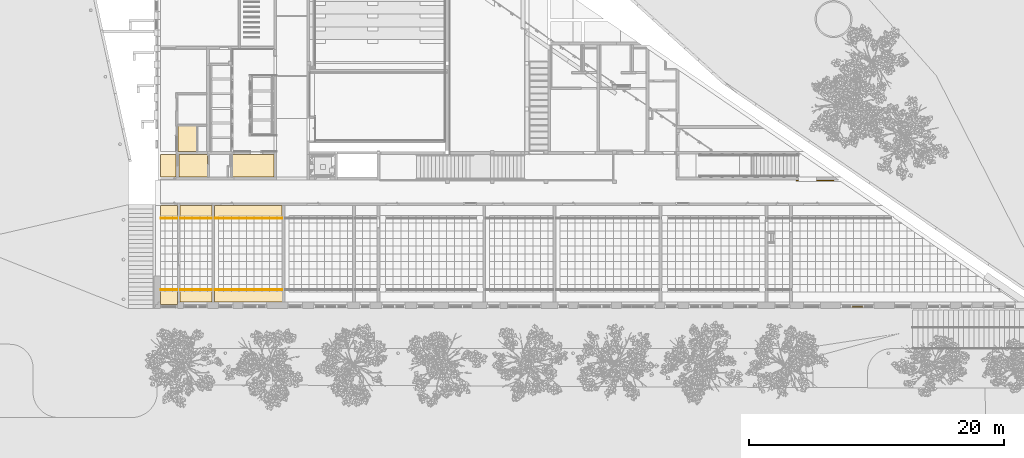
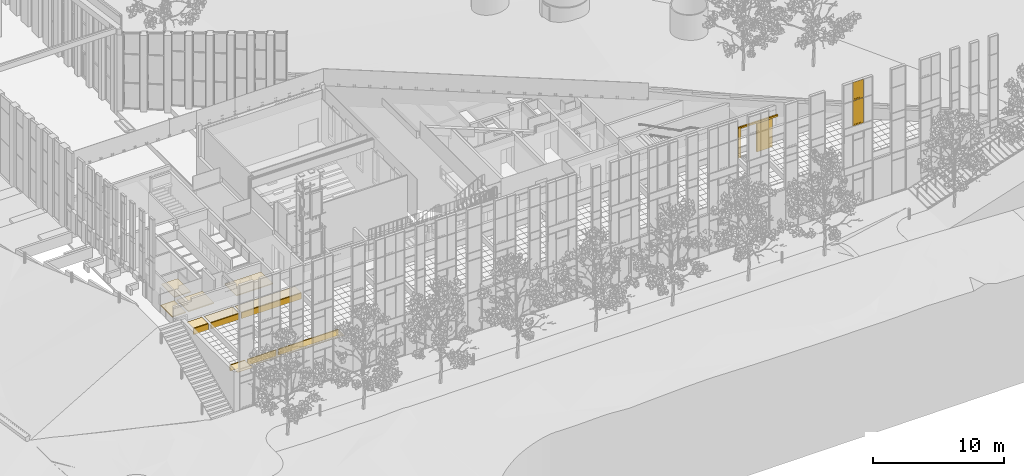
# One storey, part 153 of 246: 16 coverings, 2 windows, 1 door, 1 element without a shape of its own.
"""IFC2X3 building model written with IfcOpenShell, lengths in millimetres."""

from ifc_helpers import new_model, entity, si_unit, converted_unit, derived_unit, money_unit, direction, frame, origin_with_axes, place, context, subcontext, project, spatial, open_shell, faceted_brep, surface_model, source, transform, mapped, material, material_list, type_object, element, aggregate, save


model = new_model("IFC2X3")

# Units and contexts
model_context = context("Model", 3, precision=0.01, world=origin_with_axes(), true_north=direction((0.0, 1.0)))
body_context = subcontext(model_context, "Body", "Model", "MODEL_VIEW")
ifc_project = project(units=[si_unit("LENGTHUNIT", "METRE", prefix="MILLI"), si_unit("AREAUNIT", "SQUARE_METRE"), si_unit("VOLUMEUNIT", "CUBIC_METRE"), converted_unit("PLANEANGLEUNIT", "DEGREE", entity("IfcPlaneAngleMeasure", 0.0174532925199), si_unit("PLANEANGLEUNIT", "RADIAN"), dimensions=[0, 0, 0, 0, 0, 0, 0]), si_unit("SOLIDANGLEUNIT", "STERADIAN"), money_unit("EUR"), converted_unit("TIMEUNIT", "Year", entity("IfcTimeMeasure", 31556926.0), si_unit("TIMEUNIT", "SECOND"), dimensions=[0, 0, 1, 0, 0, 0, 0]), si_unit("MASSUNIT", "GRAM", prefix="KILO"), si_unit("THERMODYNAMICTEMPERATUREUNIT", "DEGREE_CELSIUS"), si_unit("LUMINOUSINTENSITYUNIT", "LUMEN"), si_unit("ENERGYUNIT", "JOULE", prefix="MEGA"), derived_unit("THERMALCONDUCTANCEUNIT", [(si_unit("POWERUNIT", "WATT"), 1), (si_unit("LENGTHUNIT", "METRE"), -1), (si_unit("THERMODYNAMICTEMPERATUREUNIT", "KELVIN"), -1)]), derived_unit("SPECIFICHEATCAPACITYUNIT", [(si_unit("ENERGYUNIT", "JOULE"), 1), (si_unit("MASSUNIT", "GRAM", prefix="KILO"), -1), (si_unit("THERMODYNAMICTEMPERATUREUNIT", "KELVIN"), -1)]), derived_unit("MASSDENSITYUNIT", [(si_unit("MASSUNIT", "GRAM", prefix="KILO"), 1), (si_unit("VOLUMEUNIT", "CUBIC_METRE"), -1)])], contexts=[model_context])

# Site, building, storey
site_placement = place(None, origin_with_axes())
site = spatial("IfcSite", under=ifc_project, at=site_placement, Name="L.Koidula tn 11b", CompositionType="ELEMENT")
building_placement = place(site_placement, origin_with_axes())
building = spatial("IfcBuilding", under=site, at=building_placement, Name="Rakvere Riigigümnaasium", CompositionType="ELEMENT")
storey_placement = place(building_placement, origin_with_axes())
storey = spatial("IfcBuildingStorey", under=building, at=storey_placement, Name="1.korrus 0,00", CompositionType="ELEMENT", Elevation=0.0)

# Curtain wall, windows
curtain_wall_type = type_object("IfcCurtainWallType", Name="Curtain Wall Type", PredefinedType="NOTDEFINED")
curtain_wall_placement = place(storey_placement, frame((90220.0003282, 5111.43278481, -1.61944594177e-05), z_axis=(0.0, 0.0, 1.0), x_axis=(1.0, 0.0, 0.0)))
curtain_wall = element("IfcCurtainWall", 1, at=curtain_wall_placement, inside=storey, type_object=curtain_wall_type, Name="KLF-05-3A")
ifc_material_1 = material(Name="Alumiiniumprofiil (RAL 7021)")
ifc_material_2 = material(Name="Klaaspakett 3x ribikardinatega")
ifc_material_list_1 = material_list([ifc_material_1, ifc_material_2])
window_style_1 = type_object("IfcWindowStyle", Name="926 x 2351 x 54", ConstructionType="NOTDEFINED", OperationType="NOTDEFINED", ParameterTakesPrecedence=False, Sizeable=False)
shared_shape_1 = source(origin_with_axes(), body_context, "Body", "SurfaceModel", [
    surface_model("IfcShellBasedSurfaceModel", [(24.9999850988, 24.9999850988, 38.0), (83.9999850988, 83.9999850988, 38.0), (866.000014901, 83.9999850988, 38.0), (925.000014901, 24.9999850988, 38.0)], [open_shell([[[0, 1, 2, 3]]])]),
    surface_model("IfcShellBasedSurfaceModel", [(925.000014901, 24.9999850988, 38.0), (866.000014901, 83.9999850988, 38.0), (866.000014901, 2291.0000149, 38.0), (925.000014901, 2350.0000149, 38.0)], [open_shell([[[0, 1, 2, 3]]])]),
    surface_model("IfcShellBasedSurfaceModel", [(24.9999850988, 2350.0000149, 38.0), (925.000014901, 2350.0000149, 38.0), (866.000014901, 2291.0000149, 38.0), (83.9999850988, 2291.0000149, 38.0)], [open_shell([[[0, 1, 2, 3]]])]),
    surface_model("IfcShellBasedSurfaceModel", [(24.9999850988, 24.9999850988, 38.0), (24.9999850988, 2350.0000149, 38.0), (83.9999850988, 2291.0000149, 38.0), (83.9999850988, 83.9999850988, 38.0)], [open_shell([[[0, 1, 2, 3]]])]),
    faceted_brep([(24.9999850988, 24.9999850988, -51.0), (925.000014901, 24.9999850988, -51.0), (925.000014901, 24.9999850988, 38.0), (24.9999850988, 24.9999850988, 38.0), (83.9999850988, 83.9999850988, -51.0), (866.000014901, 83.9999850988, -51.0), (866.000014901, 83.9999850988, 38.0), (83.9999850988, 83.9999850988, 38.0)], [[[0, 1, 2, 3]], [[0, 4, 5, 1]], [[1, 5, 6, 2]], [[3, 2, 6, 7]], [[4, 0, 3, 7]], [[5, 4, 7, 6]]]),
    faceted_brep([(925.000014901, 24.9999850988, -51.0), (925.000014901, 2350.0000149, -51.0), (925.000014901, 2350.0000149, 38.0), (925.000014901, 24.9999850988, 38.0), (866.000014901, 83.9999850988, -51.0), (866.000014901, 2291.0000149, -51.0), (866.000014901, 2291.0000149, 38.0), (866.000014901, 83.9999850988, 38.0)], [[[0, 1, 2, 3]], [[0, 4, 5, 1]], [[1, 5, 6, 2]], [[3, 2, 6, 7]], [[4, 0, 3, 7]], [[5, 4, 7, 6]]]),
    faceted_brep([(24.9999850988, 2350.0000149, -51.0), (83.9999850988, 2291.0000149, -51.0), (83.9999850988, 2291.0000149, 38.0), (24.9999850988, 2350.0000149, 38.0), (925.000014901, 2350.0000149, -51.0), (866.000014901, 2291.0000149, -51.0), (866.000014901, 2291.0000149, 38.0), (925.000014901, 2350.0000149, 38.0)], [[[0, 1, 2, 3]], [[0, 4, 5, 1]], [[1, 5, 6, 2]], [[3, 2, 6, 7]], [[4, 0, 3, 7]], [[5, 4, 7, 6]]]),
    faceted_brep([(24.9999850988, 24.9999850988, -51.0), (83.9999850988, 83.9999850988, -51.0), (83.9999850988, 83.9999850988, 38.0), (24.9999850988, 24.9999850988, 38.0), (24.9999850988, 2350.0000149, -51.0), (83.9999850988, 2291.0000149, -51.0), (83.9999850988, 2291.0000149, 38.0), (24.9999850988, 2350.0000149, 38.0)], [[[0, 1, 2, 3]], [[0, 4, 5, 1]], [[1, 5, 6, 2]], [[3, 2, 6, 7]], [[4, 0, 3, 7]], [[5, 4, 7, 6]]]),
    faceted_brep([(11.9999985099, 11.9999985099, -27.0), (938.00000149, 11.9999985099, -27.0), (938.00000149, 11.9999985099, 27.0), (11.9999985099, 11.9999985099, 27.0), (24.9999850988, 24.9999850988, -27.0), (925.000014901, 24.9999850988, -27.0), (925.000014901, 24.9999850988, 27.0), (24.9999850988, 24.9999850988, 27.0)], [[[0, 1, 2, 3]], [[0, 4, 5, 1]], [[1, 5, 6, 2]], [[3, 2, 6, 7]], [[4, 0, 3, 7]], [[5, 4, 7, 6]]]),
    faceted_brep([(938.00000149, 11.9999985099, -27.0), (938.00000149, 2363.00000149, -27.0), (938.00000149, 2363.00000149, 27.0), (938.00000149, 11.9999985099, 27.0), (925.000014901, 24.9999850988, -27.0), (925.000014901, 2350.0000149, -27.0), (925.000014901, 2350.0000149, 27.0), (925.000014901, 24.9999850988, 27.0)], [[[0, 1, 2, 3]], [[0, 4, 5, 1]], [[1, 5, 6, 2]], [[3, 2, 6, 7]], [[4, 0, 3, 7]], [[5, 4, 7, 6]]]),
    faceted_brep([(938.00000149, 2363.00000149, -27.0), (11.9999985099, 2363.00000149, -27.0), (11.9999985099, 2363.00000149, 27.0), (938.00000149, 2363.00000149, 27.0), (925.000014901, 2350.0000149, -27.0), (24.9999850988, 2350.0000149, -27.0), (24.9999850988, 2350.0000149, 27.0), (925.000014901, 2350.0000149, 27.0)], [[[0, 1, 2, 3]], [[0, 4, 5, 1]], [[1, 5, 6, 2]], [[3, 2, 6, 7]], [[4, 0, 3, 7]], [[5, 4, 7, 6]]]),
    faceted_brep([(11.9999985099, 2363.00000149, -27.0), (11.9999985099, 11.9999985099, -27.0), (11.9999985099, 11.9999985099, 27.0), (11.9999985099, 2363.00000149, 27.0), (24.9999850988, 2350.0000149, -27.0), (24.9999850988, 24.9999850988, -27.0), (24.9999850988, 24.9999850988, 27.0), (24.9999850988, 2350.0000149, 27.0)], [[[0, 1, 2, 3]], [[0, 4, 5, 1]], [[1, 5, 6, 2]], [[3, 2, 6, 7]], [[4, 0, 3, 7]], [[5, 4, 7, 6]]]),
    faceted_brep([(146.999985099, 146.999985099, 38.0), (146.999985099, 146.999985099, -62.0), (146.999985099, 2228.0000149, -62.0), (146.999985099, 2228.0000149, 38.0), (83.9999850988, 83.9999850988, 38.0), (83.9999850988, 83.9999850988, -62.0), (83.9999850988, 2291.0000149, -62.0), (83.9999850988, 2291.0000149, 38.0)], [[[0, 1, 2, 3]], [[4, 5, 1, 0]], [[1, 5, 6, 2]], [[3, 2, 6, 7]], [[0, 3, 7, 4]], [[7, 6, 5, 4]]]),
    faceted_brep([(866.000014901, 83.9999850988, 38.0), (866.000014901, 83.9999850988, -62.0), (866.000014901, 2291.0000149, -62.0), (866.000014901, 2291.0000149, 38.0), (803.000014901, 146.999985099, 38.0), (803.000014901, 146.999985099, -62.0), (803.000014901, 2228.0000149, -62.0), (803.000014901, 2228.0000149, 38.0)], [[[0, 1, 2, 3]], [[4, 5, 1, 0]], [[1, 5, 6, 2]], [[3, 2, 6, 7]], [[0, 3, 7, 4]], [[7, 6, 5, 4]]]),
    faceted_brep([(866.000014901, 83.9999850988, 38.0), (866.000014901, 83.9999850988, -62.0), (803.000014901, 146.999985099, -62.0), (803.000014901, 146.999985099, 38.0), (83.9999850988, 83.9999850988, 38.0), (83.9999850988, 83.9999850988, -62.0), (146.999985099, 146.999985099, -62.0), (146.999985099, 146.999985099, 38.0)], [[[0, 1, 2, 3]], [[4, 5, 1, 0]], [[1, 5, 6, 2]], [[3, 2, 6, 7]], [[0, 3, 7, 4]], [[7, 6, 5, 4]]]),
    faceted_brep([(83.9999850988, 2291.0000149, 38.0), (83.9999850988, 2291.0000149, -62.0), (146.999985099, 2228.0000149, -62.0), (146.999985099, 2228.0000149, 38.0), (866.000014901, 2291.0000149, 38.0), (866.000014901, 2291.0000149, -62.0), (803.000014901, 2228.0000149, -62.0), (803.000014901, 2228.0000149, 38.0)], [[[0, 1, 2, 3]], [[4, 5, 1, 0]], [[1, 5, 6, 2]], [[3, 2, 6, 7]], [[0, 3, 7, 4]], [[7, 6, 5, 4]]]),
    faceted_brep([(146.999985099, 146.999985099, 27.0), (146.999985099, 146.999985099, -38.0), (803.000014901, 146.999985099, -38.0), (803.000014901, 146.999985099, 27.0), (146.999985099, 2228.0000149, 27.0), (146.999985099, 2228.0000149, -38.0), (803.000014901, 2228.0000149, -38.0), (803.000014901, 2228.0000149, 27.0)], [[[0, 1, 2, 3]], [[4, 5, 1, 0]], [[1, 5, 6, 2]], [[3, 2, 6, 7]], [[0, 3, 7, 4]], [[7, 6, 5, 4]]]),
])
window_1_placement = place(curtain_wall_placement, frame((0.0, 0.0, 8652.5), z_axis=(0.0, 0.0, 1.0), x_axis=(-0.999999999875, 1.58166009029e-05, 0.0)))
window_1 = element("IfcWindow", 2, at=window_1_placement, type_object=window_style_1, material=ifc_material_list_1, Name="KLF-05-A-2", ObjectType="WINDOW", context=body_context, shape_type="MappedRepresentation", body=[
    mapped(shared_shape_1, transform((475.0, 0.0, -1187.5), x_axis=(-1.0, 0.0, 0.0), y_axis=(0.0, 0.0, 1.0), z_axis=(0.0, 1.0, 0.0))),
])
window_style_2 = type_object("IfcWindowStyle", Name="926 x 1701 x 54", ConstructionType="NOTDEFINED", OperationType="NOTDEFINED", ParameterTakesPrecedence=False, Sizeable=False)
shared_shape_2 = source(origin_with_axes(), body_context, "Body", "SurfaceModel", [
    surface_model("IfcShellBasedSurfaceModel", [(24.9999968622, 24.9999968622, 38.0), (83.9999968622, 83.9999968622, 38.0), (865.999988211, 83.9999968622, 38.0), (924.999988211, 24.9999968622, 38.0)], [open_shell([[[0, 1, 2, 3]]])]),
    surface_model("IfcShellBasedSurfaceModel", [(924.999988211, 24.9999968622, 38.0), (865.999988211, 83.9999968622, 38.0), (865.999988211, 1641.0000474, 38.0), (924.999988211, 1700.0000474, 38.0)], [open_shell([[[0, 1, 2, 3]]])]),
    surface_model("IfcShellBasedSurfaceModel", [(24.9999968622, 1700.0000474, 38.0), (924.999988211, 1700.0000474, 38.0), (865.999988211, 1641.0000474, 38.0), (83.9999968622, 1641.0000474, 38.0)], [open_shell([[[0, 1, 2, 3]]])]),
    surface_model("IfcShellBasedSurfaceModel", [(24.9999968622, 24.9999968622, 38.0), (24.9999968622, 1700.0000474, 38.0), (83.9999968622, 1641.0000474, 38.0), (83.9999968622, 83.9999968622, 38.0)], [open_shell([[[0, 1, 2, 3]]])]),
    faceted_brep([(24.9999968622, 24.9999968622, -51.0), (924.999988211, 24.9999968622, -51.0), (924.999988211, 24.9999968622, 38.0), (24.9999968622, 24.9999968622, 38.0), (83.9999968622, 83.9999968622, -51.0), (865.999988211, 83.9999968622, -51.0), (865.999988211, 83.9999968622, 38.0), (83.9999968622, 83.9999968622, 38.0)], [[[0, 1, 2, 3]], [[0, 4, 5, 1]], [[1, 5, 6, 2]], [[3, 2, 6, 7]], [[4, 0, 3, 7]], [[5, 4, 7, 6]]]),
    faceted_brep([(924.999988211, 24.9999968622, -51.0), (924.999988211, 1700.0000474, -51.0), (924.999988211, 1700.0000474, 38.0), (924.999988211, 24.9999968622, 38.0), (865.999988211, 83.9999968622, -51.0), (865.999988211, 1641.0000474, -51.0), (865.999988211, 1641.0000474, 38.0), (865.999988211, 83.9999968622, 38.0)], [[[0, 1, 2, 3]], [[0, 4, 5, 1]], [[1, 5, 6, 2]], [[3, 2, 6, 7]], [[4, 0, 3, 7]], [[5, 4, 7, 6]]]),
    faceted_brep([(24.9999968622, 1700.0000474, -51.0), (83.9999968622, 1641.0000474, -51.0), (83.9999968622, 1641.0000474, 38.0), (24.9999968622, 1700.0000474, 38.0), (924.999988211, 1700.0000474, -51.0), (865.999988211, 1641.0000474, -51.0), (865.999988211, 1641.0000474, 38.0), (924.999988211, 1700.0000474, 38.0)], [[[0, 1, 2, 3]], [[0, 4, 5, 1]], [[1, 5, 6, 2]], [[3, 2, 6, 7]], [[4, 0, 3, 7]], [[5, 4, 7, 6]]]),
    faceted_brep([(24.9999968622, 24.9999968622, -51.0), (83.9999968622, 83.9999968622, -51.0), (83.9999968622, 83.9999968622, 38.0), (24.9999968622, 24.9999968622, 38.0), (24.9999968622, 1700.0000474, -51.0), (83.9999968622, 1641.0000474, -51.0), (83.9999968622, 1641.0000474, 38.0), (24.9999968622, 1700.0000474, 38.0)], [[[0, 1, 2, 3]], [[0, 4, 5, 1]], [[1, 5, 6, 2]], [[3, 2, 6, 7]], [[4, 0, 3, 7]], [[5, 4, 7, 6]]]),
    faceted_brep([(12.0000099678, 12.0000099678, -27.0), (938.000001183, 12.0000099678, -27.0), (938.000001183, 12.0000099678, 27.0), (12.0000099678, 12.0000099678, 27.0), (24.9999968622, 24.9999968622, -27.0), (924.999988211, 24.9999968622, -27.0), (924.999988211, 24.9999968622, 27.0), (24.9999968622, 24.9999968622, 27.0)], [[[0, 1, 2, 3]], [[0, 4, 5, 1]], [[1, 5, 6, 2]], [[3, 2, 6, 7]], [[4, 0, 3, 7]], [[5, 4, 7, 6]]]),
    faceted_brep([(938.000001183, 12.0000099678, -27.0), (938.000001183, 1713.0000343, -27.0), (938.000001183, 1713.0000343, 27.0), (938.000001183, 12.0000099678, 27.0), (924.999988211, 24.9999968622, -27.0), (924.999988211, 1700.0000474, -27.0), (924.999988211, 1700.0000474, 27.0), (924.999988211, 24.9999968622, 27.0)], [[[0, 1, 2, 3]], [[0, 4, 5, 1]], [[1, 5, 6, 2]], [[3, 2, 6, 7]], [[4, 0, 3, 7]], [[5, 4, 7, 6]]]),
    faceted_brep([(938.000001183, 1713.0000343, -27.0), (12.0000099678, 1713.0000343, -27.0), (12.0000099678, 1713.0000343, 27.0), (938.000001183, 1713.0000343, 27.0), (924.999988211, 1700.0000474, -27.0), (24.9999968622, 1700.0000474, -27.0), (24.9999968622, 1700.0000474, 27.0), (924.999988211, 1700.0000474, 27.0)], [[[0, 1, 2, 3]], [[0, 4, 5, 1]], [[1, 5, 6, 2]], [[3, 2, 6, 7]], [[4, 0, 3, 7]], [[5, 4, 7, 6]]]),
    faceted_brep([(12.0000099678, 1713.0000343, -27.0), (12.0000099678, 12.0000099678, -27.0), (12.0000099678, 12.0000099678, 27.0), (12.0000099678, 1713.0000343, 27.0), (24.9999968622, 1700.0000474, -27.0), (24.9999968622, 24.9999968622, -27.0), (24.9999968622, 24.9999968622, 27.0), (24.9999968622, 1700.0000474, 27.0)], [[[0, 1, 2, 3]], [[0, 4, 5, 1]], [[1, 5, 6, 2]], [[3, 2, 6, 7]], [[4, 0, 3, 7]], [[5, 4, 7, 6]]]),
    faceted_brep([(146.999996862, 146.999996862, 38.0), (146.999996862, 146.999996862, -62.0), (146.999996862, 1578.0000474, -62.0), (146.999996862, 1578.0000474, 38.0), (83.9999968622, 83.9999968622, 38.0), (83.9999968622, 83.9999968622, -62.0), (83.9999968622, 1641.0000474, -62.0), (83.9999968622, 1641.0000474, 38.0)], [[[0, 1, 2, 3]], [[4, 5, 1, 0]], [[1, 5, 6, 2]], [[3, 2, 6, 7]], [[0, 3, 7, 4]], [[7, 6, 5, 4]]]),
    faceted_brep([(865.999988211, 83.9999968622, 38.0), (865.999988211, 83.9999968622, -62.0), (865.999988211, 1641.0000474, -62.0), (865.999988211, 1641.0000474, 38.0), (802.999988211, 146.999996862, 38.0), (802.999988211, 146.999996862, -62.0), (802.999988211, 1578.0000474, -62.0), (802.999988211, 1578.0000474, 38.0)], [[[0, 1, 2, 3]], [[4, 5, 1, 0]], [[1, 5, 6, 2]], [[3, 2, 6, 7]], [[0, 3, 7, 4]], [[7, 6, 5, 4]]]),
    faceted_brep([(865.999988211, 83.9999968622, 38.0), (865.999988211, 83.9999968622, -62.0), (802.999988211, 146.999996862, -62.0), (802.999988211, 146.999996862, 38.0), (83.9999968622, 83.9999968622, 38.0), (83.9999968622, 83.9999968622, -62.0), (146.999996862, 146.999996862, -62.0), (146.999996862, 146.999996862, 38.0)], [[[0, 1, 2, 3]], [[4, 5, 1, 0]], [[1, 5, 6, 2]], [[3, 2, 6, 7]], [[0, 3, 7, 4]], [[7, 6, 5, 4]]]),
    faceted_brep([(83.9999968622, 1641.0000474, 38.0), (83.9999968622, 1641.0000474, -62.0), (146.999996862, 1578.0000474, -62.0), (146.999996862, 1578.0000474, 38.0), (865.999988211, 1641.0000474, 38.0), (865.999988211, 1641.0000474, -62.0), (802.999988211, 1578.0000474, -62.0), (802.999988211, 1578.0000474, 38.0)], [[[0, 1, 2, 3]], [[4, 5, 1, 0]], [[1, 5, 6, 2]], [[3, 2, 6, 7]], [[0, 3, 7, 4]], [[7, 6, 5, 4]]]),
    faceted_brep([(146.999996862, 146.999996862, 27.0), (146.999996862, 146.999996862, -38.0), (802.999988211, 146.999996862, -38.0), (802.999988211, 146.999996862, 27.0), (146.999996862, 1578.0000474, 27.0), (146.999996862, 1578.0000474, -38.0), (802.999988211, 1578.0000474, -38.0), (802.999988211, 1578.0000474, 27.0)], [[[0, 1, 2, 3]], [[4, 5, 1, 0]], [[1, 5, 6, 2]], [[3, 2, 6, 7]], [[0, 3, 7, 4]], [[7, 6, 5, 4]]]),
])
window_2_placement = place(curtain_wall_placement, frame((0.0, 0.0, 10715.0000206), z_axis=(0.0, 0.0, 1.0), x_axis=(-0.999999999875, 1.58166009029e-05, 0.0)))
window_2 = element("IfcWindow", 3, at=window_2_placement, type_object=window_style_2, material=ifc_material_list_1, Name="KLF-05-A-4", ObjectType="WINDOW", context=body_context, shape_type="MappedRepresentation", body=[
    mapped(shared_shape_2, transform((475.0, 0.0, -875.000020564), x_axis=(-1.0, 0.0, 0.0), y_axis=(0.0, 0.0, 1.0), z_axis=(0.0, 1.0, 0.0))),
])
aggregate(curtain_wall, [window_1, window_2])

# Door
ifc_material_3 = material(Name="Alumiiniumprofiil")
door_style = type_object("IfcDoorStyle", Name="Liuguks 1400mm", ConstructionType="NOTDEFINED", OperationType="NOTDEFINED", ParameterTakesPrecedence=False, Sizeable=False)
shared_shape_3 = source(origin_with_axes(), body_context, "Body", "Brep", [
    faceted_brep([(0.0, 136.0, 0.0), (0.0, 136.0, 2870.0), (220.0000183, 136.0, 2870.0), (220.0000183, 136.0, 0.0), (0.0, 30.0, 0.0), (0.0, 30.0, 2870.0), (220.0000183, 30.0, 2870.0), (220.0000183, 30.0, 0.0)], [[[0, 1, 2, 3]], [[0, 4, 5, 1]], [[1, 5, 6, 2]], [[7, 3, 2, 6]], [[4, 0, 3, 7]], [[5, 4, 7, 6]]]),
    faceted_brep([(1620.0, 136.0, 0.0), (1620.0, 136.0, 2710.0), (3020.0, 136.0, 2710.0), (3020.0, 136.0, 0.0), (1620.0, 51.0, 0.0), (1620.0, 51.0, 2710.0), (3020.0, 51.0, 2710.0), (3020.0, 51.0, 0.0)], [[[0, 1, 2, 3]], [[1, 0, 4, 5]], [[1, 5, 6, 2]], [[3, 2, 6, 7]], [[4, 0, 3, 7]], [[5, 4, 7, 6]]]),
    faceted_brep([(220.0, 136.0, 2710.0), (220.0, 136.0, 2870.0000209), (3470.0, 136.0, 2870.0000209), (3470.0, 136.0, 2710.0), (220.0, 0.0, 2710.0), (220.0, 0.0, 2870.0000209), (3470.0, 0.0, 2870.0000209), (3470.0, 0.0, 2710.0)], [[[0, 1, 2, 3]], [[1, 0, 4, 5]], [[1, 5, 6, 2]], [[3, 2, 6, 7]], [[4, 0, 3, 7]], [[5, 4, 7, 6]]]),
])
door_placement = place(storey_placement, frame((85370.0187423, 14964.4785302, 0.0), z_axis=(0.0, 0.0, 1.0), x_axis=(1.0, 0.0, 0.0)))
element("IfcDoor", 4, at=door_placement, inside=storey, type_object=door_style, material=ifc_material_3, Name="SU-043", ObjectType="DOOR", context=body_context, shape_type="MappedRepresentation", body=[
    mapped(shared_shape_3, transform((0.0, 0.0, 0.0))),
])

# Coverings
ifc_material_4 = material(Name="mineraalvill+karkass")
ifc_material_5 = material(Name="SKR-02_Kipsplaat")
ifc_material_list_2 = material_list([ifc_material_4, ifc_material_5])
covering_type_1 = type_object("IfcCoveringType", Name="SA-LV-kips 79", PredefinedType="CEILING")
covering_1_placement = place(storey_placement, frame((44389.9999865, 17100.4555123, 2400.0), z_axis=(0.0, 0.0, 1.0), x_axis=(1.0, 0.0, 0.0)))
element("IfcCovering", 5, at=covering_1_placement, inside=storey, type_object=covering_type_1, material=ifc_material_list_2, Name="L-04.1", PredefinedType="CEILING", context=body_context, shape_type="Brep", body=[
    faceted_brep([(-3224.99266996, 0.0, 12.5), (-3224.99266996, 0.0, 78.5), (0.0, 0.0, 78.5), (0.0, 0.0, 12.5), (-3224.99266996, -1789.97698206, 12.5), (-3224.99266996, -1789.97698206, 78.5), (0.0, -1789.97698206, 78.5), (0.0, -1789.97698206, 12.5)], [[[0, 1, 2, 3]], [[4, 5, 1, 0]], [[2, 1, 5, 6]], [[3, 2, 6, 7]], [[3, 7, 4, 0]], [[7, 6, 5, 4]]]),
    faceted_brep([(0.0, 0.0, 0.0), (-3224.99266996, 0.0, 0.0), (-3224.99266996, 0.0, 12.5), (0.0, 0.0, 12.5), (0.0, -1789.97698206, 0.0), (-3224.99266996, -1789.97698206, 0.0), (-3224.99266996, -1789.97698206, 12.5), (0.0, -1789.97698206, 12.5)], [[[0, 1, 2, 3]], [[0, 4, 5, 1]], [[1, 5, 6, 2]], [[3, 2, 6, 7]], [[4, 0, 3, 7]], [[5, 4, 7, 6]]]),
])
covering_2_placement = place(storey_placement, frame((39185.007288, 17100.4555054, 2400.0), z_axis=(0.0, 0.0, 1.0), x_axis=(1.0, 0.0, 0.0)))
element("IfcCovering", 6, at=covering_2_placement, inside=storey, type_object=covering_type_1, material=ifc_material_list_2, Name="L-04", PredefinedType="CEILING", context=body_context, shape_type="Brep", body=[
    faceted_brep([(-2255.00723728, 0.0, 12.5), (-2255.00723728, 0.0, 78.5), (0.0, 0.0, 78.5), (0.0, 0.0, 12.5), (-2255.00723728, -1789.97697519, 12.5), (-2255.00723728, -1789.97697519, 78.5), (0.0, -1789.97697519, 78.5), (0.0, -1789.97697519, 12.5)], [[[0, 1, 2, 3]], [[4, 5, 1, 0]], [[2, 1, 5, 6]], [[3, 2, 6, 7]], [[3, 7, 4, 0]], [[7, 6, 5, 4]]]),
    faceted_brep([(0.0, 0.0, 0.0), (-2255.00723728, 0.0, 0.0), (-2255.00723728, 0.0, 12.5), (0.0, 0.0, 12.5), (0.0, -1789.97697519, 0.0), (-2255.00723728, -1789.97697519, 0.0), (-2255.00723728, -1789.97697519, 12.5), (0.0, -1789.97697519, 12.5)], [[[0, 1, 2, 3]], [[0, 4, 5, 1]], [[1, 5, 6, 2]], [[3, 2, 6, 7]], [[4, 0, 3, 7]], [[5, 4, 7, 6]]]),
])
for number, where, z_axis, x_axis, name in (
    (7, (39529.9999985, 12135.4543717, 2762.5), (0.0, 0.0, 1.0), (-1.0, 0.0, 0.0), "L-04 vert"),
    (8, (37030.0000005, 6435.45437174, 2762.5), (0.0, 0.0, 1.0), (1.0, 0.0, 0.0), "L-04 vert"),
):
    element("IfcCovering", number, at=place(storey_placement, frame(where, z_axis=z_axis, x_axis=x_axis)), inside=storey, type_object=covering_type_1, material=ifc_material_list_2, Name=name, PredefinedType="CEILING", context=body_context, shape_type="Brep", body=[
        faceted_brep([(2499.99999805, 12.5, 562.5), (2499.99999805, 78.5, 562.5), (0.0, 78.5, 562.5), (0.0, 12.5, 562.5), (2499.99999805, 12.5, 0.0), (2499.99999805, 78.5, 0.0), (0.0, 78.5, 0.0), (0.0, 12.5, 0.0)], [[[0, 1, 2, 3]], [[0, 4, 5, 1]], [[1, 5, 6, 2]], [[3, 2, 6, 7]], [[4, 0, 3, 7]], [[5, 4, 7, 6]]]),
        faceted_brep([(2499.99999805, 0.0, 562.5), (2499.99999805, 12.5, 562.5), (0.0, 12.5, 562.5), (0.0, 0.0, 562.5), (2499.99999805, 0.0, 0.0), (2499.99999805, 12.5, 0.0), (0.0, 12.5, 0.0), (0.0, 0.0, 0.0)], [[[0, 1, 2, 3]], [[0, 4, 5, 1]], [[1, 5, 6, 2]], [[3, 2, 6, 7]], [[4, 0, 3, 7]], [[5, 4, 7, 6]]]),
    ])
for number, where, z_axis, x_axis, name in (
    (9, (45049.9999972, 12135.4543717, 2762.5), (0.0, 0.0, 1.0), (-1.0, 0.0, 0.0), "L-04 vert"),
    (10, (39749.9999985, 6435.45437174, 2762.5), (0.0, 0.0, 1.0), (1.0, 0.0, 0.0), "L-04 vert"),
):
    element("IfcCovering", number, at=place(storey_placement, frame(where, z_axis=z_axis, x_axis=x_axis)), inside=storey, type_object=covering_type_1, material=ifc_material_list_2, Name=name, PredefinedType="CEILING", context=body_context, shape_type="Brep", body=[
        faceted_brep([(5299.99999866, 12.5, 562.5), (5299.99999866, 78.5, 562.5), (0.0, 78.5, 562.5), (0.0, 12.5, 562.5), (5299.99999866, 12.5, 0.0), (5299.99999866, 78.5, 0.0), (0.0, 78.5, 0.0), (0.0, 12.5, 0.0)], [[[0, 1, 2, 3]], [[0, 4, 5, 1]], [[1, 5, 6, 2]], [[3, 2, 6, 7]], [[4, 0, 3, 7]], [[5, 4, 7, 6]]]),
        faceted_brep([(5299.99999866, 0.0, 562.5), (5299.99999866, 12.5, 562.5), (0.0, 12.5, 562.5), (0.0, 0.0, 562.5), (5299.99999866, 0.0, 0.0), (5299.99999866, 12.5, 0.0), (0.0, 12.5, 0.0), (0.0, 0.0, 0.0)], [[[0, 1, 2, 3]], [[0, 4, 5, 1]], [[1, 5, 6, 2]], [[3, 2, 6, 7]], [[4, 0, 3, 7]], [[5, 4, 7, 6]]]),
    ])
covering_3_placement = place(storey_placement, frame((38308.5072856, 19310.4397072, 2550.0), z_axis=(0.0, 0.0, 1.0), x_axis=(1.0, 0.0, 0.0)))
element("IfcCovering", 11, at=covering_3_placement, inside=storey, type_object=covering_type_1, material=ifc_material_list_2, Name="L-04", PredefinedType="CEILING", context=body_context, shape_type="Brep", body=[
    faceted_brep([(-1458.5072349, 0.0, 12.5), (-1458.5072349, 0.0, 78.5), (0.0, 0.0, 78.5), (0.0, 0.0, 12.5), (-1458.5072349, -1989.98419774, 12.5), (-1458.5072349, -1989.98419774, 78.5), (0.0, -1989.98419774, 78.5), (0.0, -1989.98419774, 12.5)], [[[0, 1, 2, 3]], [[4, 5, 1, 0]], [[2, 1, 5, 6]], [[3, 2, 6, 7]], [[3, 7, 4, 0]], [[7, 6, 5, 4]]]),
    faceted_brep([(0.0, 0.0, 0.0), (-1458.5072349, 0.0, 0.0), (-1458.5072349, 0.0, 12.5), (0.0, 0.0, 12.5), (0.0, -1989.98419774, 0.0), (-1458.5072349, -1989.98419774, 0.0), (-1458.5072349, -1989.98419774, 12.5), (0.0, -1989.98419774, 12.5)], [[[0, 1, 2, 3]], [[0, 4, 5, 1]], [[1, 5, 6, 2]], [[3, 2, 6, 7]], [[4, 0, 3, 7]], [[5, 4, 7, 6]]]),
])
for number, where, z_axis, x_axis, name in (
    (12, (36810.0000005, 12135.4543717, 2762.5), (0.0, 0.0, 1.0), (-1.0, 0.0, 0.0), "L-04 vert"),
    (13, (35500.0000521, 6435.45437174, 2762.5), (0.0, 0.0, 1.0), (1.0, 0.0, 0.0), "L-04 vert"),
):
    element("IfcCovering", number, at=place(storey_placement, frame(where, z_axis=z_axis, x_axis=x_axis)), inside=storey, type_object=covering_type_1, material=ifc_material_list_2, Name=name, PredefinedType="CEILING", context=body_context, shape_type="Brep", body=[
        faceted_brep([(1309.99994835, 12.5, 562.5), (1309.99994835, 78.5, 562.5), (0.0, 78.5, 562.5), (0.0, 12.5, 562.5), (1309.99994835, 12.5, 0.0), (1309.99994835, 78.5, 0.0), (0.0, 78.5, 0.0), (0.0, 12.5, 0.0)], [[[0, 1, 2, 3]], [[0, 4, 5, 1]], [[1, 5, 6, 2]], [[3, 2, 6, 7]], [[4, 0, 3, 7]], [[5, 4, 7, 6]]]),
        faceted_brep([(1309.99994835, 0.0, 562.5), (1309.99994835, 12.5, 562.5), (0.0, 12.5, 562.5), (0.0, 0.0, 562.5), (1309.99994835, 0.0, 0.0), (1309.99994835, 12.5, 0.0), (0.0, 12.5, 0.0), (0.0, 0.0, 0.0)], [[[0, 1, 2, 3]], [[0, 4, 5, 1]], [[1, 5, 6, 2]], [[3, 2, 6, 7]], [[4, 0, 3, 7]], [[5, 4, 7, 6]]]),
    ])
covering_4_placement = place(storey_placement, frame((35500.0000521, 15310.4785302, 2400.0), z_axis=(0.0, 0.0, 1.0), x_axis=(1.0, 0.0, 0.0)))
element("IfcCovering", 14, at=covering_4_placement, inside=storey, type_object=covering_type_1, material=ifc_material_list_2, Name="L-04", PredefinedType="CEILING", context=body_context, shape_type="Brep", body=[
    faceted_brep([(1209.99999858, 0.0, 12.5), (1209.99999858, 0.0, 78.5), (0.0, 0.0, 78.5), (0.0, 0.0, 12.5), (1209.99999858, 1789.97698197, 12.5), (1209.99999858, 1789.97698197, 78.5), (0.0, 1789.97698197, 78.5), (0.0, 1789.97698197, 12.5)], [[[0, 1, 2, 3]], [[4, 5, 1, 0]], [[2, 1, 5, 6]], [[3, 2, 6, 7]], [[3, 7, 4, 0]], [[7, 6, 5, 4]]]),
    faceted_brep([(0.0, 0.0, 0.0), (1209.99999858, 0.0, 0.0), (1209.99999858, 0.0, 12.5), (0.0, 0.0, 12.5), (0.0, 1789.97698197, 0.0), (1209.99999858, 1789.97698197, 0.0), (1209.99999858, 1789.97698197, 12.5), (0.0, 1789.97698197, 12.5)], [[[0, 1, 2, 3]], [[0, 4, 5, 1]], [[1, 5, 6, 2]], [[3, 2, 6, 7]], [[4, 0, 3, 7]], [[5, 4, 7, 6]]]),
])
ifc_material_6 = material(Name="Salto-siseviimistlus-ripplagi")
covering_type_2 = type_object("IfcCoveringType", Name="Salto-siseviimistlus-ripplagi 1", PredefinedType="CLADDING")
covering_5_placement = place(storey_placement, frame((35500.0000521, 12135.4543717, 3325.0), z_axis=(0.0, 0.0, 1.0), x_axis=(1.0, 0.0, 0.0)))
element("IfcCovering", 15, at=covering_5_placement, inside=storey, type_object=covering_type_2, material=ifc_material_6, Name="L-09", PredefinedType="CLADDING", context=body_context, shape_type="Brep", body=[
    faceted_brep([(0.0, 0.0, 0.0), (0.0, 0.0, -1.0), (1309.99994835, 0.0, -1.0), (1309.99994835, 0.0, 0.0), (0.0, 934.986503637, 0.0), (0.0, 934.986503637, -1.0), (1309.99994835, 934.986503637, -1.0), (1309.99994835, 934.986503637, 0.0)], [[[0, 1, 2, 3]], [[4, 5, 1, 0]], [[2, 1, 5, 6]], [[3, 2, 6, 7]], [[4, 0, 3, 7]], [[7, 6, 5, 4]]]),
])
covering_6_placement = place(storey_placement, frame((35500.0000521, 5300.45553887, 3325.0), z_axis=(0.0, 0.0, 1.0), x_axis=(1.0, 0.0, 0.0)))
element("IfcCovering", 16, at=covering_6_placement, inside=storey, type_object=covering_type_2, material=ifc_material_6, Name="L-09", PredefinedType="CLADDING", context=body_context, shape_type="Brep", body=[
    faceted_brep([(0.0, 0.0, 0.0), (0.0, 0.0, -1.0), (1319.99994835, 0.0, -1.0), (1319.99994835, 0.0, 0.0), (0.0, 1134.99883287, 0.0), (0.0, 1134.99883287, -1.0), (1319.99994835, 1134.99883287, -1.0), (1319.99994835, 1134.99883287, 0.0)], [[[0, 1, 2, 3]], [[4, 5, 1, 0]], [[2, 1, 5, 6]], [[3, 2, 6, 7]], [[4, 0, 3, 7]], [[7, 6, 5, 4]]]),
])
covering_7_placement = place(storey_placement, frame((37030.0000005, 5510.45553887, 3325.0), z_axis=(0.0, 0.0, 1.0), x_axis=(1.0, 0.0, 0.0)))
element("IfcCovering", 17, at=covering_7_placement, inside=storey, type_object=covering_type_2, material=ifc_material_6, Name="L-09", PredefinedType="CLADDING", context=body_context, shape_type="Brep", body=[
    faceted_brep([(0.0, 0.0, 0.0), (0.0, 0.0, -1.0), (2499.99999805, 0.0, -1.0), (2499.99999805, 0.0, 0.0), (0.0, 924.998832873, 0.0), (0.0, 924.998832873, -1.0), (2499.99999805, 924.998832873, -1.0), (2499.99999805, 924.998832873, 0.0)], [[[0, 1, 2, 3]], [[4, 5, 1, 0]], [[2, 1, 5, 6]], [[3, 2, 6, 7]], [[4, 0, 3, 7]], [[7, 6, 5, 4]]]),
])
covering_8_placement = place(storey_placement, frame((37030.0000005, 12135.4543717, 3325.0), z_axis=(0.0, 0.0, 1.0), x_axis=(1.0, 0.0, 0.0)))
element("IfcCovering", 18, at=covering_8_placement, inside=storey, type_object=covering_type_2, material=ifc_material_6, Name="L-09", PredefinedType="CLADDING", context=body_context, shape_type="Brep", body=[
    faceted_brep([(0.0, 0.0, 0.0), (0.0, 0.0, -1.0), (2500.00005439, 0.0, -1.0), (2500.00005439, 0.0, 0.0), (0.0, 934.987233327, 0.0), (0.0, 934.987233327, -1.0), (2500.00005439, 934.987233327, -1.0), (2500.00005439, 934.987233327, 0.0)], [[[0, 1, 2, 3]], [[4, 5, 1, 0]], [[2, 1, 5, 6]], [[3, 2, 6, 7]], [[4, 0, 3, 7]], [[7, 6, 5, 4]]]),
])
covering_9_placement = place(storey_placement, frame((39749.9999985, 12135.4543717, 3325.0), z_axis=(0.0, 0.0, 1.0), x_axis=(1.0, 0.0, 0.0)))
element("IfcCovering", 19, at=covering_9_placement, inside=storey, type_object=covering_type_2, material=ifc_material_6, Name="L-09", PredefinedType="CLADDING", context=body_context, shape_type="Brep", body=[
    faceted_brep([(0.0, 0.0, 0.0), (0.0, 0.0, -1.0), (5299.99999866, 0.0, -1.0), (5299.99999866, 0.0, 0.0), (0.0, 934.987292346, 0.0), (0.0, 934.987292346, -1.0), (5299.99999866, 934.987292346, -1.0), (5299.99999866, 934.987292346, 0.0)], [[[0, 1, 2, 3]], [[4, 5, 1, 0]], [[2, 1, 5, 6]], [[3, 2, 6, 7]], [[4, 0, 3, 7]], [[7, 6, 5, 4]]]),
])
covering_10_placement = place(storey_placement, frame((39749.9999985, 5500.45553858, 3325.0), z_axis=(0.0, 0.0, 1.0), x_axis=(1.0, 0.0, 0.0)))
element("IfcCovering", 20, at=covering_10_placement, inside=storey, type_object=covering_type_2, material=ifc_material_6, Name="L-09", PredefinedType="CLADDING", context=body_context, shape_type="Brep", body=[
    faceted_brep([(0.0, 0.0, 0.0), (0.0, 0.0, -1.0), (5309.99999866, 0.0, -1.0), (5309.99999866, 0.0, 0.0), (0.0, 934.998833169, 0.0), (0.0, 934.998833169, -1.0), (5309.99999866, 934.998833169, -1.0), (5309.99999866, 934.998833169, 0.0)], [[[0, 1, 2, 3]], [[4, 5, 1, 0]], [[2, 1, 5, 6]], [[3, 2, 6, 7]], [[4, 0, 3, 7]], [[7, 6, 5, 4]]]),
])

save(model, "model.ifc")
